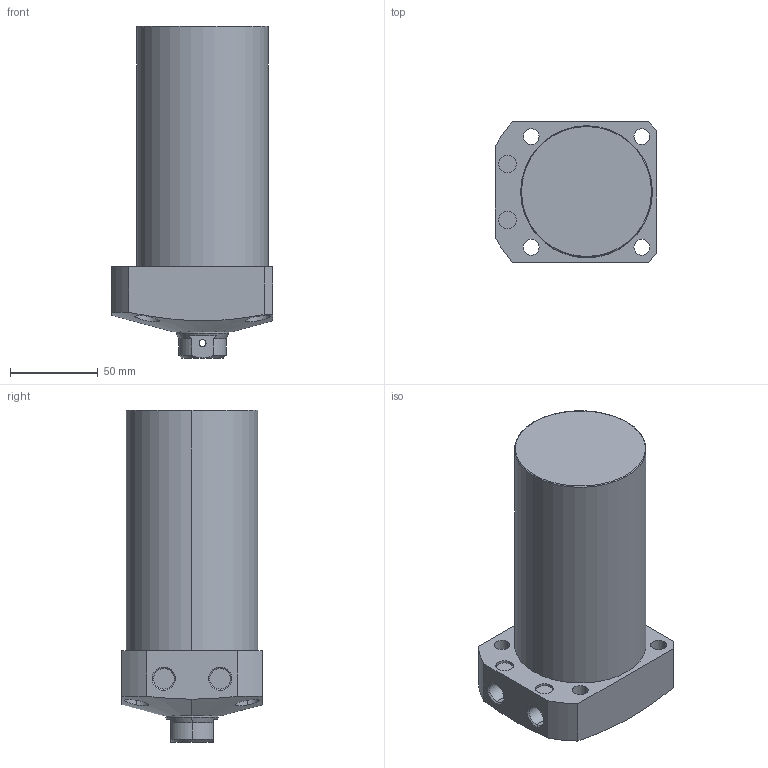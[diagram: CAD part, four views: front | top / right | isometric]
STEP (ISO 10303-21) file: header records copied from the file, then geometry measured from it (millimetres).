
FILE_DESCRIPTION (( 'STEP AP203' ), '1' );
FILE_NAME ('CLL-075CB-100.STEP', '2019-12-24T00:17:43', ( '' ), ( '' ), 'SwSTEP 2.0', 'SolidWorks 2015', '' );
FILE_SCHEMA (( 'CONFIG_CONTROL_DESIGN' ));
Length unit declared in the file: millimetre
Products named in the file (1): CLL-075CB-100
Bounding box: 92 x 80 x 189 mm (x, y, z)
Volume: 824177.9 mm3; surface area: 64693 mm2
Topology: 1 solids, 1 shells, 78 faces, 183 edges, 116 vertices
Faces by surface type: cylinder 39, plane 22, cone 15, torus 2
Entity records: 2862 total; most frequent: CARTESIAN_POINT 955, DIRECTION 396, ORIENTED_EDGE 362, EDGE_CURVE 181, AXIS2_PLACEMENT_3D 164, VERTEX_POINT 116, EDGE_LOOP 101, CIRCLE 85
